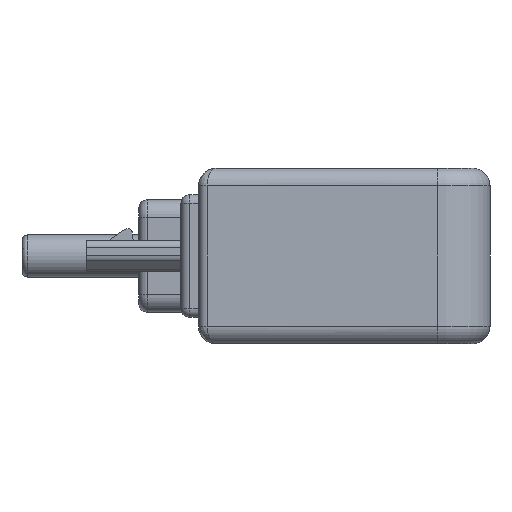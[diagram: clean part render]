
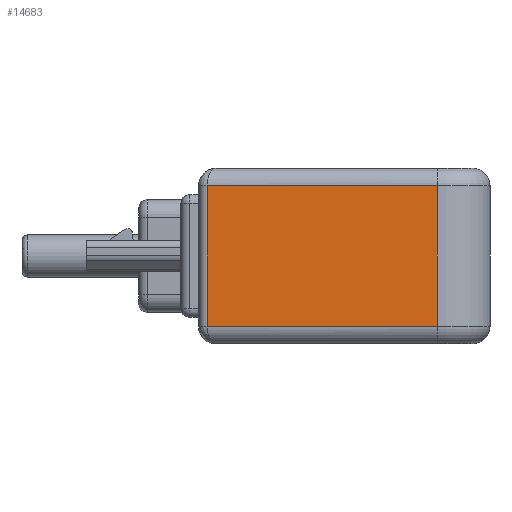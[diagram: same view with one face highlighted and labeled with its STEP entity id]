
A CAD part, left-side view. The second image highlights one B-rep face of the part: STEP entity #14683.
In plain terms, the highlighted planar face has unit normal (-1, 0, 0).
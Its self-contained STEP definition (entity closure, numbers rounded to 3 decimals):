
#424 = VERTEX_POINT ( 'NONE', #11177 ) ;
#1290 = DIRECTION ( 'NONE',  ( 0., 0., -1. ) ) ;
#1766 = CARTESIAN_POINT ( 'NONE',  ( -8., 11.1, 5. ) ) ;
#3600 = CARTESIAN_POINT ( 'NONE',  ( -8., -2., 5. ) ) ;
#3868 = LINE ( 'NONE', #7931, #9529 ) ;
#4233 = EDGE_CURVE ( 'NONE', #424, #5710, #20869, .T. ) ;
#5710 = VERTEX_POINT ( 'NONE', #9298 ) ;
#5876 = VERTEX_POINT ( 'NONE', #13317 ) ;
#5911 = VECTOR ( 'NONE', #19444, 1000. ) ;
#6041 = CARTESIAN_POINT ( 'NONE',  ( -8., 11.1, -4. ) ) ;
#6749 = ORIENTED_EDGE ( 'NONE', *, *, #4233, .F. ) ;
#6762 = ORIENTED_EDGE ( 'NONE', *, *, #10812, .T. ) ;
#7931 = CARTESIAN_POINT ( 'NONE',  ( -8., 11.1, 4. ) ) ;
#9142 = LINE ( 'NONE', #26260, #21852 ) ;
#9298 = CARTESIAN_POINT ( 'NONE',  ( -8., -2., -4. ) ) ;
#9529 = VECTOR ( 'NONE', #16782, 1000. ) ;
#9739 = PLANE ( 'NONE',  #9806 ) ;
#9806 = AXIS2_PLACEMENT_3D ( 'NONE', #18575, #18018, #11628 ) ;
#10803 = VERTEX_POINT ( 'NONE', #6041 ) ;
#10812 = EDGE_CURVE ( 'NONE', #424, #5876, #3868, .T. ) ;
#11177 = CARTESIAN_POINT ( 'NONE',  ( -8., -2., 4. ) ) ;
#11628 = DIRECTION ( 'NONE',  ( 0., 1., 0. ) ) ;
#12775 = LINE ( 'NONE', #1766, #5911 ) ;
#13317 = CARTESIAN_POINT ( 'NONE',  ( -8., 11.1, 4. ) ) ;
#13857 = VECTOR ( 'NONE', #1290, 1000. ) ;
#14683 = ADVANCED_FACE ( 'NONE', ( #18161 ), #9739, .F. ) ;
#16782 = DIRECTION ( 'NONE',  ( 0., 1., 0. ) ) ;
#17706 = DIRECTION ( 'NONE',  ( 0., -1., 0. ) ) ;
#17776 = EDGE_LOOP ( 'NONE', ( #25498, #23679, #6749, #6762 ) ) ;
#18018 = DIRECTION ( 'NONE',  ( 1., 0., 0. ) ) ;
#18161 = FACE_OUTER_BOUND ( 'NONE', #17776, .T. ) ;
#18575 = CARTESIAN_POINT ( 'NONE',  ( -8., 11.6, 5. ) ) ;
#19444 = DIRECTION ( 'NONE',  ( 0., 0., -1. ) ) ;
#20869 = LINE ( 'NONE', #3600, #13857 ) ;
#21293 = EDGE_CURVE ( 'NONE', #5876, #10803, #12775, .T. ) ;
#21852 = VECTOR ( 'NONE', #17706, 1000. ) ;
#23608 = EDGE_CURVE ( 'NONE', #10803, #5710, #9142, .T. ) ;
#23679 = ORIENTED_EDGE ( 'NONE', *, *, #23608, .T. ) ;
#25498 = ORIENTED_EDGE ( 'NONE', *, *, #21293, .T. ) ;
#26260 = CARTESIAN_POINT ( 'NONE',  ( -8., 11.6, -4. ) ) ;
